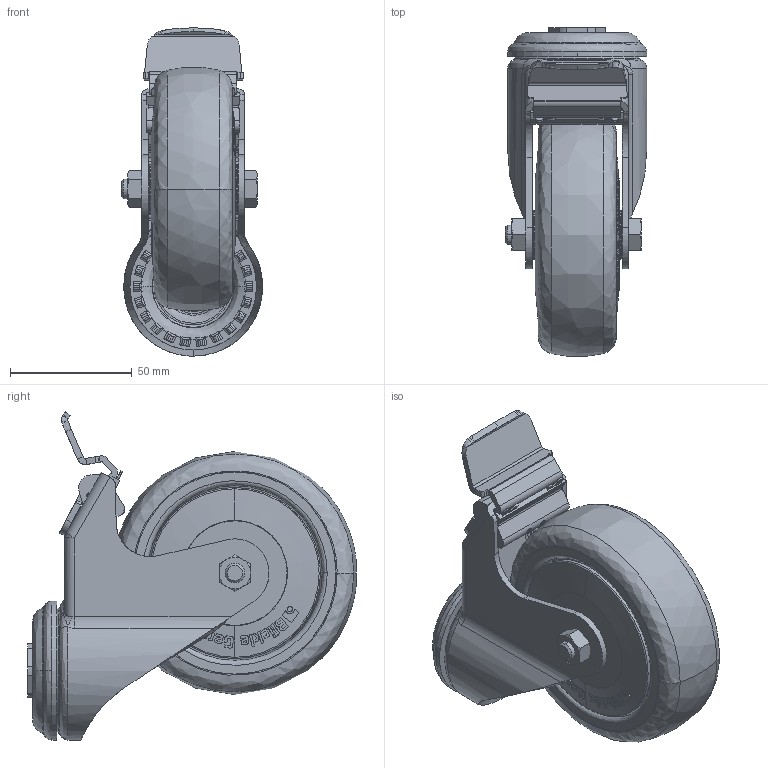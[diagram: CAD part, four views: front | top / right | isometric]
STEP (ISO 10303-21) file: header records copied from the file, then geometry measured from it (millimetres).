
FILE_DESCRIPTION (( 'STEP AP214' ), '1' );
FILE_NAME ('1.5057 Pyörä D100 H135 kääntyvä lukollinen kuulalaakerilla.STEP', '2025-09-17T07:28:07', ( '' ), ( '' ), 'SwSTEP 2.0', 'SolidWorks 2025', '' );
FILE_SCHEMA (( 'AUTOMOTIVE_DESIGN' ));
Length unit declared in the file: millimetre
Products named in the file (1): 1.5057 Pyörä D100 H135 kääntyvä lukollinen kuulalaakerilla
Bounding box: 58 x 134.86 x 134.57 mm (x, y, z)
Volume: 262064.8 mm3; surface area: 93457.5 mm2
Topology: 3 solids, 6 shells, 2497 faces, 6738 edges, 4376 vertices
Faces by surface type: plane 1101, bspline 859, cylinder 382, cone 155
Entity records: 142846 total; most frequent: CARTESIAN_POINT 60457, ORIENTED_EDGE 13462, DIRECTION 8068, EDGE_CURVE 6731, VERTEX_POINT 4376, VECTOR 3068, LINE 3068, B_SPLINE_CURVE_WITH_KNOTS 2686
